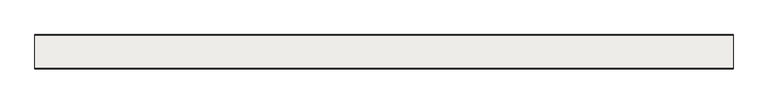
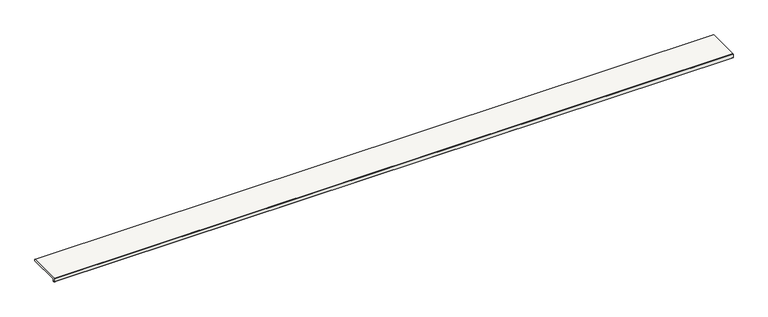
"""IFC4 building model written with IfcOpenShell, lengths in millimetres: slab geometry, ROSA GRES_L62 : Pieza L62_Serena_Ocra_Anti-Slip."""

import ifcopenshell
import ifcopenshell.guid

model = None  # the IFC model being written
_history = None  # IfcOwnerHistory: only IFC2X3 demands one
_inside = {}  # id of a spatial element -> (the spatial element, [elements in it])
_under = {}  # id of a project, library or spatial element -> (it, [spatial elements below it])
_declared = {}  # id of a project -> (the project, [libraries it declares])
_typed = {}  # id of a type object -> (the type object, [elements of that type])
_made_of = {}  # id of a material, layer set ... -> (it, [elements and type objects made of it])


def new_model(schema):
    """Start an empty IFC model of exactly this schema.

    Asked for "IFC4X3", IfcOpenShell would pick the latest addendum, in which some entities
    have other attributes; the version numbers below select the first issue.
    IFC2X3 requires an IfcOwnerHistory on every rooted entity: one is made here for all.
    """
    global model, _history
    if schema == "IFC4X3":
        model = ifcopenshell.file(schema_version=(4, 3, 0, 0))
    else:
        model = ifcopenshell.file(schema=schema)
    _inside.clear()
    _under.clear()
    _declared.clear()
    _typed.clear()
    _made_of.clear()
    _history = None
    if model.schema == "IFC2X3":
        org = make("IfcOrganization", Name="unknown")
        user = make(
            "IfcPersonAndOrganization",
            ThePerson=make("IfcPerson", FamilyName="unknown"),
            TheOrganization=org,
        )
        app = make(
            "IfcApplication",
            ApplicationDeveloper=org,
            Version="unknown",
            ApplicationFullName="unknown",
            ApplicationIdentifier="unknown",
        )
        _history = make(
            "IfcOwnerHistory",
            OwningUser=user,
            OwningApplication=app,
            ChangeAction="ADDED",
            CreationDate=0,
        )
    return model


def make(cls, **values):
    """One entity of the class cls with the attributes given. An attribute that is None is left unset."""
    return model.create_entity(
        cls, **{name: value for name, value in values.items() if value is not None}
    )


def rooted(cls, **values):
    """An entity with a GlobalId (a new one), such as an element, a storey or a relation."""
    return make(cls, GlobalId=ifcopenshell.guid.new(), OwnerHistory=_history, **values)


def si_unit(unit_type, name, prefix=None):
    """IfcSIUnit, for example si_unit("LENGTHUNIT", "METRE", prefix="MILLI")."""
    return make("IfcSIUnit", UnitType=unit_type, Prefix=prefix, Name=name)


def assignment(units):
    """IfcUnitAssignment: the units of a project."""
    return None if units is None else make("IfcUnitAssignment", Units=units)


def point(xyz):
    """IfcCartesianPoint."""
    return None if xyz is None else make("IfcCartesianPoint", Coordinates=xyz)


def direction(xyz):
    """IfcDirection."""
    return None if xyz is None else make("IfcDirection", DirectionRatios=xyz)


def frame(location, z_axis=None, x_axis=None):
    """IfcAxis2Placement3D, a coordinate frame: its origin and axes. An axis left out is left unset."""
    return make(
        "IfcAxis2Placement3D",
        Location=point(location),
        Axis=direction(z_axis),
        RefDirection=direction(x_axis),
    )


def frame_2d(location, x_axis=None):
    """IfcAxis2Placement2D, a coordinate frame in the plane: its origin and x axis."""
    return make(
        "IfcAxis2Placement2D", Location=point(location), RefDirection=direction(x_axis)
    )


def origin():
    """The frame at (0, 0, 0) with its axes left unset."""
    return frame((0.0, 0.0, 0.0))


def place(relative_to, where):
    """IfcLocalPlacement: puts the frame where relative to a parent placement (None: the world)."""
    return make(
        "IfcLocalPlacement", PlacementRelTo=relative_to, RelativePlacement=where
    )


def context(
    kind, dimensions, precision=None, world=None, true_north=None, identifier=None
):
    """IfcGeometricRepresentationContext, for example the 3D "Model" context."""
    return make(
        "IfcGeometricRepresentationContext",
        ContextIdentifier=identifier,
        ContextType=kind,
        CoordinateSpaceDimension=dimensions,
        Precision=precision,
        WorldCoordinateSystem=world,
        TrueNorth=true_north,
    )


def project(units=None, contexts=None):
    """IfcProject with its units and contexts."""
    return rooted(
        "IfcProject",
        Name="project",
        RepresentationContexts=contexts,
        UnitsInContext=assignment(units),
    )


def spatial(cls, under=None, at=None, **own):
    """A site, building, storey or space (cls), placed at a placement, below another one or the project."""
    s = rooted(cls, ObjectPlacement=at, **own)
    if under is not None:
        _under.setdefault(under.id(), (under, []))[1].append(s)
    return s


def polyline(points):
    """IfcPolyline through the points."""
    return make("IfcPolyline", Points=[point(p) for p in points])


def circle_curve(where, radius):
    """IfcCircle in the frame where."""
    return make("IfcCircle", Position=where, Radius=radius)


def trimmed(basis, trim1, trim2, sense, master):
    """IfcTrimmedCurve: the piece of a basis curve between two trims."""
    return make(
        "IfcTrimmedCurve",
        BasisCurve=basis,
        Trim1=trim1,
        Trim2=trim2,
        SenseAgreement=sense,
        MasterRepresentation=master,
    )


def segment(curve, same_sense, transition):
    """IfcCompositeCurveSegment."""
    return make(
        "IfcCompositeCurveSegment",
        Transition=transition,
        SameSense=same_sense,
        ParentCurve=curve,
    )


def composite_curve(segments, self_intersect=None):
    """IfcCompositeCurve: segments joined end to end."""
    return make("IfcCompositeCurve", Segments=segments, SelfIntersect=self_intersect)


def outline(outer, holes=None, kind="AREA"):
    """IfcArbitraryClosedProfileDef: a profile drawn as a closed curve; with holes, ...WithVoids."""
    if holes is None:
        return make("IfcArbitraryClosedProfileDef", ProfileType=kind, OuterCurve=outer)
    return make(
        "IfcArbitraryProfileDefWithVoids",
        ProfileType=kind,
        OuterCurve=outer,
        InnerCurves=holes,
    )


def extrude(swept, where, along, depth):
    """IfcExtrudedAreaSolid: the profile swept, set in the frame where, extruded along a direction by depth."""
    return make(
        "IfcExtrudedAreaSolid",
        SweptArea=swept,
        Position=where,
        ExtrudedDirection=direction(along),
        Depth=depth,
    )


def shape(context_of_items, identifier, shape_type, items):
    """IfcShapeRepresentation: the items that make up one representation, for example the "Body"."""
    return make(
        "IfcShapeRepresentation",
        ContextOfItems=context_of_items,
        RepresentationIdentifier=identifier,
        RepresentationType=shape_type,
        Items=items,
    )


def source(mapping_origin, context_of_items, identifier, shape_type, items):
    """IfcRepresentationMap: a shape defined once, which mapped items show again and again."""
    return make(
        "IfcRepresentationMap",
        MappingOrigin=mapping_origin,
        MappedRepresentation=shape(context_of_items, identifier, shape_type, items),
    )


def transform(
    local_origin,
    x_axis=None,
    y_axis=None,
    z_axis=None,
    scale=None,
    scale2=None,
    scale3=None,
    uniform=True,
):
    """IfcCartesianTransformationOperator3D, or its non-uniform kind. x_axis, y_axis, z_axis: its Axis1, 2, 3."""
    if uniform:
        return make(
            "IfcCartesianTransformationOperator3D",
            Axis1=direction(x_axis),
            Axis2=direction(y_axis),
            LocalOrigin=point(local_origin),
            Scale=scale,
            Axis3=direction(z_axis),
        )
    return make(
        "IfcCartesianTransformationOperator3DnonUniform",
        Axis1=direction(x_axis),
        Axis2=direction(y_axis),
        LocalOrigin=point(local_origin),
        Scale=scale,
        Axis3=direction(z_axis),
        Scale2=scale2,
        Scale3=scale3,
    )


def mapped(mapping_source, mapping_target):
    """IfcMappedItem: shows the shape of a source again, moved by a transform."""
    return make(
        "IfcMappedItem", MappingSource=mapping_source, MappingTarget=mapping_target
    )


def made_of(thing, what):
    """Note that an element or type object is made of a material, layer set ...; save() writes the relation."""
    if what is not None:
        _made_of.setdefault(what.id(), (what, []))[1].append(thing)
    return thing


def element(
    cls,
    number,
    at=None,
    inside=None,
    cuts=None,
    type_object=None,
    material=None,
    context=None,
    identifier="Body",
    shape_type=None,
    held_by="IfcProductDefinitionShape",
    body=None,
    shapes=None,
    **own,
):
    """One element of the class cls, such as IfcWall. Its Tag is "e" and its number.

    at: its placement. inside: the storey or other place that contains it. cuts: it is an
    opening in that element (IfcRelVoidsElement). A single representation is given by context,
    identifier, shape_type and body (its items); several are given by shapes. held_by: the class
    of the entity that holds the representations. save() writes the other relations.
    """
    e = rooted(cls, Tag="e%d" % number, ObjectPlacement=at, **own)
    if body is not None:
        shapes = [shape(context, identifier, shape_type, body)]
    if shapes is not None:
        e.Representation = make(held_by, Representations=shapes)
    if inside is not None:
        _inside.setdefault(inside.id(), (inside, []))[1].append(e)
    if cuts is not None:
        rooted(
            "IfcRelVoidsElement", RelatingBuildingElement=cuts, RelatedOpeningElement=e
        )
    if type_object is not None:
        _typed.setdefault(type_object.id(), (type_object, []))[1].append(e)
    return made_of(e, material)


def aggregate(whole, parts):
    """IfcRelAggregates: a whole, such as a stair, and the parts it consists of."""
    return rooted("IfcRelAggregates", RelatingObject=whole, RelatedObjects=parts)


def save(model, path):
    """Write the relations noted so far, then the file.

    IfcRelAggregates (storeys below a building ...), IfcRelContainedInSpatialStructure (elements
    in a storey), IfcRelDefinesByType, IfcRelAssociatesMaterial and IfcRelDeclares: one each for
    every whole, place, type object, material and project.
    """
    for whole, parts in _under.values():
        aggregate(whole, parts)
    for where, things in _inside.values():
        rooted(
            "IfcRelContainedInSpatialStructure",
            RelatedElements=things,
            RelatingStructure=where,
        )
    for kind, things in _typed.values():
        rooted("IfcRelDefinesByType", RelatedObjects=things, RelatingType=kind)
    for what, things in _made_of.values():
        rooted("IfcRelAssociatesMaterial", RelatedObjects=things, RelatingMaterial=what)
    for by, libraries in _declared.values():
        rooted("IfcRelDeclares", RelatingContext=by, RelatedDefinitions=libraries)
    model.write(path)


def slab_1db0556c(model_context):
    return source(origin(), model_context, "Body", "SweptSolid", [
        extrude(outline(composite_curve([segment(polyline([(12.1001991, -37.0), (9.4054777, -37.0)]), True, "CONTINUOUS"), segment(trimmed(circle_curve(frame_2d((7.4142134, -37.0)), 1.9912643), [point((9.4054777, -37.0))], [point((5.422949, -37.0))], True, "CARTESIAN"), True, "CONTINUOUS"), segment(polyline([(5.422949, -37.0), (2.5, -37.0)]), True, "CONTINUOUS"), segment(trimmed(circle_curve(frame_2d((2.5, -34.5)), 2.5), [point((2.5, -37.0))], [point((0.0, -34.5))], False, "CARTESIAN"), True, "CONTINUOUS"), segment(polyline([(0.0, -34.5), (0.0, -2.5), (2.5, 0.0), (315.5, 0.0), (317.0, -2.5), (317.0, -12.4648352)]), True, "CONTINUOUS"), segment(trimmed(circle_curve(frame_2d((315.5234432, -12.4648352)), 1.4765568), [point((317.0, -12.4648352))], [point((315.5234432, -13.9413919))], False, "CARTESIAN"), True, "CONTINUOUS"), segment(polyline([(315.5234432, -13.9413919), (16.6422322, -13.9413919)]), True, "CONTINUOUS"), segment(trimmed(circle_curve(frame_2d((16.6422322, -16.5836242)), 2.6422322), [point((16.6422322, -13.9413919))], [point((14.0, -16.5836242))], True, "CARTESIAN"), True, "CONTINUOUS"), segment(polyline([(14.0, -16.5836242), (14.0, -35.1001991)]), True, "CONTINUOUS"), segment(trimmed(circle_curve(frame_2d((12.1001991, -35.1001991)), 1.8998009), [point((14.0, -35.1001991))], [point((12.1001991, -37.0))], False, "CARTESIAN"), True, "CONTINUOUS")], self_intersect=False)), frame((0.0, 0.0, 0.0), z_axis=(1.0, 0.0, 0.0), x_axis=(0.0, 1.0, 0.0)), (0.0, 0.0, 1.0), 6441.5),
    ])


if __name__ == "__main__":
    model = new_model("IFC4")
    model_context = context("Model", 3, world=origin())
    ifc_project = project(units=[si_unit("LENGTHUNIT", "METRE", prefix="MILLI")], contexts=[model_context])
    site = spatial("IfcSite", under=ifc_project)
    building = spatial("IfcBuilding", under=site)
    placement = place(None, origin())
    slab_shape = slab_1db0556c(model_context)
    element("IfcSlab", 1, ObjectType="ROSA GRES_L62 : Pieza L62_Serena_Ocra_Anti-Slip", at=placement, inside=building, context=model_context, shape_type="MappedRepresentation", body=[
        mapped(slab_shape, transform((0.0, 0.0, 0.0), x_axis=(1.0, 0.0, 0.0), y_axis=(0.0, 1.0, 0.0), z_axis=(0.0, 0.0, 1.0))),
    ])
    save(model, "model.ifc")
